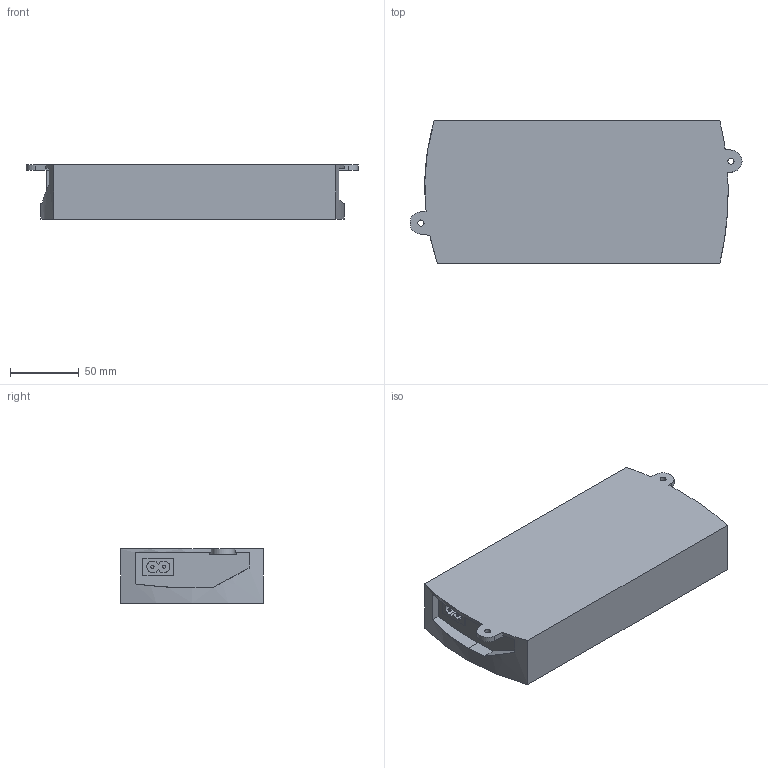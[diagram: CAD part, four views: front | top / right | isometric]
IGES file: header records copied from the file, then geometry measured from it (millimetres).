
Start section: Data from Parasolid IGES Translator 20.0.26, Copyright(c) 2006 Siemens P LM Software. All Rights Reserved.
Global section: file name: 9309941.igs; native system: By Siemens PLM Incorporated; preprocessor: XPlus GENERIC/IGES 20.0.26; author: Noname; organization: Noname; date: 20220127.163944; units: millimetre
Bounding box: 240.97 x 103.25 x 39.22 mm (x, y, z)
Surface area: 78584.1 mm2 (no closed solid volume)
Topology: 0 solids, 0 shells, 193 faces, 1002 edges, 996 vertices
Faces by surface type: extrusion 177, revolution 16
